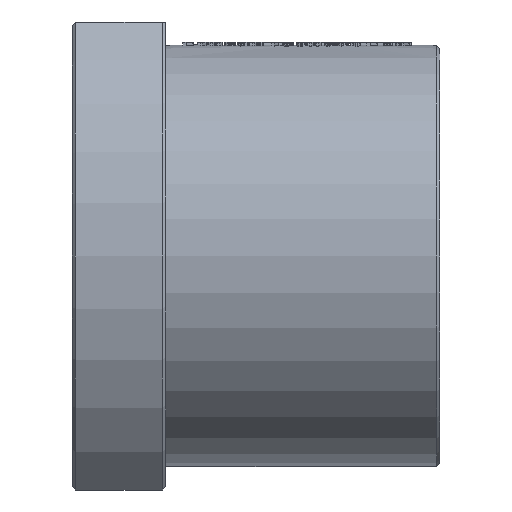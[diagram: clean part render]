
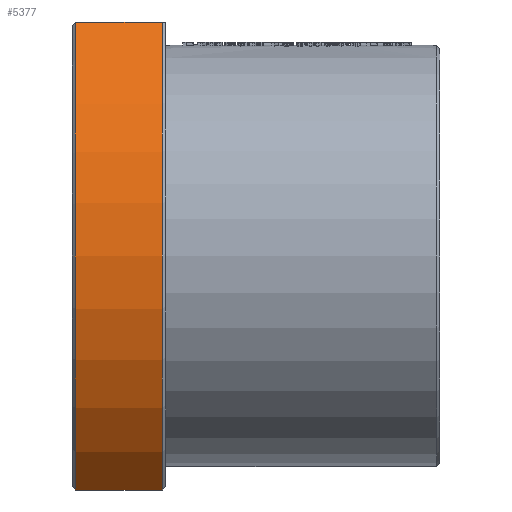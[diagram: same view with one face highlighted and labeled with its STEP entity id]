
A CAD part, front view. The second image highlights one B-rep face of the part: STEP entity #5377.
In plain terms, the highlighted cylindrical face has radius 46.5 mm (diameter 93 mm), a partial arc.
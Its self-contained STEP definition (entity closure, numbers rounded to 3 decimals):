
#658 = ORIENTED_EDGE ( 'NONE', *, *, #9054, .F. ) ;
#1224 = DIRECTION ( 'NONE',  ( 1., 0., 0. ) ) ;
#1688 = DIRECTION ( 'NONE',  ( 0., 0., 1. ) ) ;
#3573 = CARTESIAN_POINT ( 'NONE',  ( -98.264, 12.246, -13.637 ) ) ;
#3983 = EDGE_CURVE ( 'NONE', #17225, #18413, #13609, .T. ) ;
#4982 = AXIS2_PLACEMENT_3D ( 'NONE', #11934, #8232, #25554 ) ;
#5377 = ADVANCED_FACE ( 'NONE', ( #12490 ), #21150, .T. ) ;
#6180 = EDGE_CURVE ( 'NONE', #17225, #27848, #7705, .T. ) ;
#6639 = EDGE_LOOP ( 'NONE', ( #658, #8926, #9650, #10750 ) ) ;
#7705 = CIRCLE ( 'NONE', #9976, 46.5 ) ;
#8031 = LINE ( 'NONE', #25354, #16754 ) ;
#8232 = DIRECTION ( 'NONE',  ( -1., 0., 0. ) ) ;
#8652 = CIRCLE ( 'NONE', #19995, 46.5 ) ;
#8926 = ORIENTED_EDGE ( 'NONE', *, *, #13740, .T. ) ;
#9054 = EDGE_CURVE ( 'NONE', #26228, #27848, #8031, .T. ) ;
#9337 = DIRECTION ( 'NONE',  ( 1., 0., 0. ) ) ;
#9650 = ORIENTED_EDGE ( 'NONE', *, *, #3983, .F. ) ;
#9850 = DIRECTION ( 'NONE',  ( 0., 0., -1. ) ) ;
#9976 = AXIS2_PLACEMENT_3D ( 'NONE', #20926, #1224, #9850 ) ;
#10750 = ORIENTED_EDGE ( 'NONE', *, *, #6180, .T. ) ;
#11476 = CARTESIAN_POINT ( 'NONE',  ( -111.764, 12.246, 56.363 ) ) ;
#11934 = CARTESIAN_POINT ( 'NONE',  ( -111.764, 42.86, 21.363 ) ) ;
#12490 = FACE_OUTER_BOUND ( 'NONE', #6639, .T. ) ;
#13517 = CARTESIAN_POINT ( 'NONE',  ( -111.264, 12.246, -13.637 ) ) ;
#13609 = LINE ( 'NONE', #11476, #24000 ) ;
#13740 = EDGE_CURVE ( 'NONE', #26228, #18413, #8652, .T. ) ;
#16754 = VECTOR ( 'NONE', #28031, 1000. ) ;
#17225 = VERTEX_POINT ( 'NONE', #22759 ) ;
#18413 = VERTEX_POINT ( 'NONE', #20590 ) ;
#18847 = CARTESIAN_POINT ( 'NONE',  ( -98.264, 42.86, 21.363 ) ) ;
#19995 = AXIS2_PLACEMENT_3D ( 'NONE', #18847, #25648, #1688 ) ;
#20590 = CARTESIAN_POINT ( 'NONE',  ( -98.264, 12.246, 56.363 ) ) ;
#20926 = CARTESIAN_POINT ( 'NONE',  ( -111.264, 42.86, 21.363 ) ) ;
#21150 = CYLINDRICAL_SURFACE ( 'NONE', #4982, 46.5 ) ;
#22759 = CARTESIAN_POINT ( 'NONE',  ( -111.264, 12.246, 56.363 ) ) ;
#24000 = VECTOR ( 'NONE', #9337, 1000. ) ;
#25354 = CARTESIAN_POINT ( 'NONE',  ( -111.764, 12.246, -13.637 ) ) ;
#25554 = DIRECTION ( 'NONE',  ( 0., 0., 1. ) ) ;
#25648 = DIRECTION ( 'NONE',  ( -1., 0., 0. ) ) ;
#26228 = VERTEX_POINT ( 'NONE', #3573 ) ;
#27848 = VERTEX_POINT ( 'NONE', #13517 ) ;
#28031 = DIRECTION ( 'NONE',  ( -1., 0., 0. ) ) ;
